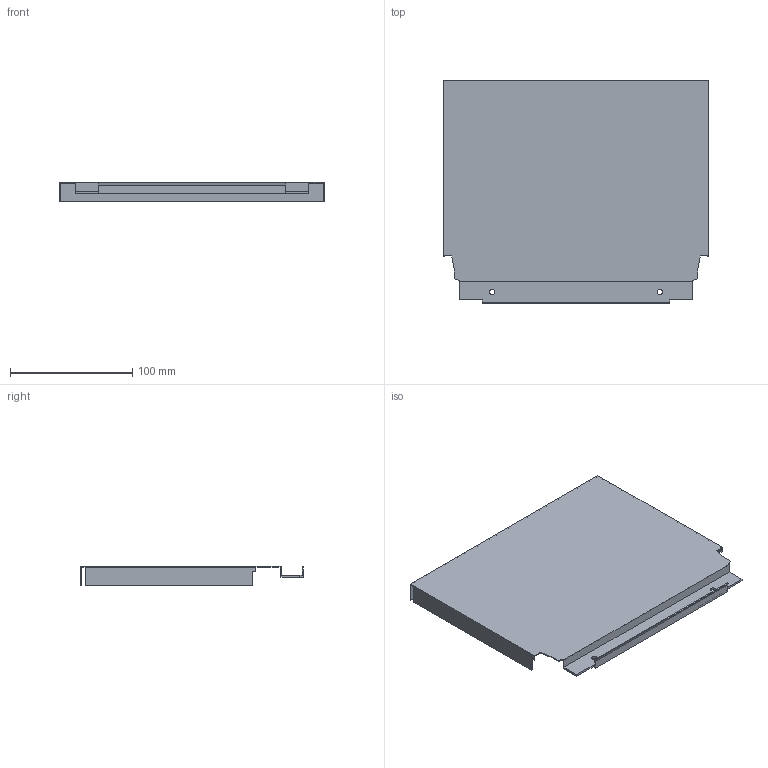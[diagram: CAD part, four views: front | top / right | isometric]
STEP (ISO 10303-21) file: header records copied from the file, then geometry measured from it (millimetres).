
FILE_DESCRIPTION (( 'STEP AP214' ), '1' );
FILE_NAME ('_DWD_XP Stahlrückwand_H182_KAB300_S16.step', '2010-07-08T12:57:30', ( 'grass' ), ( '' ), 'SwSTEP 2.0', 'SolidWorks 2010', '' );
FILE_SCHEMA (( 'AUTOMOTIVE_DESIGN' ));
Length unit declared in the file: millimetre
Products named in the file (1): _DWD_XP Stahlrückwand_H182_KAB300_S16
Bounding box: 217 x 182.49 x 16 mm (x, y, z)
Volume: 41826.4 mm3; surface area: 98220.3 mm2
Topology: 1 solids, 1 shells, 44 faces, 126 edges, 84 vertices
Faces by surface type: plane 40, cylinder 4
Entity records: 1460 total; most frequent: CARTESIAN_POINT 255, ORIENTED_EDGE 252, DIRECTION 224, EDGE_CURVE 126, LINE 118, VECTOR 118, VERTEX_POINT 84, AXIS2_PLACEMENT_3D 53
